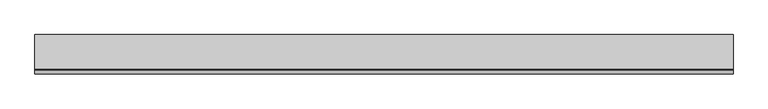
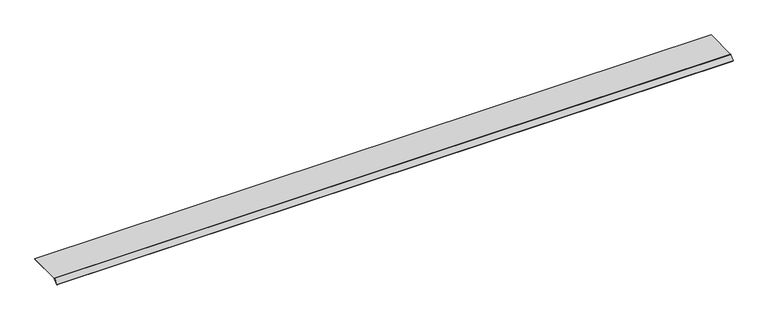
"""IFC4 building model written with IfcOpenShell, lengths in millimetres: proxy geometry, Electrical_Installation_Hager_Blank-Cover-800mm-Single-Sided-Height-40mm : Electrical_Installation_Hager_Blank-Cover-800mm-Single-Sided-Height-40mm."""

from ifc_helpers import new_model, si_unit, point, frame, frame_2d, origin, place, context, project, spatial, polyline, circle_curve, trimmed, segment, composite_curve, outline, extrude, source, transform, mapped, element, save


def electrical_fixtures_4618f37a(model_context):
    return source(origin(), model_context, "Body", "SweptSolid", [
        extrude(outline(composite_curve([segment(polyline([(150.0, 25.5), (150.0, 22.5), (-149.8229541, 22.5)]), True, "CONTINUOUS"), segment(trimmed(circle_curve(frame_2d((-149.8229541, 21.0725733)), 1.4274267), [point((-149.8229541, 22.5))], [point((-150.8322972, 22.0819164))], True, "CARTESIAN"), True, "CONTINUOUS"), segment(polyline([(-150.8322972, 22.0819164), (-187.91729, -15.0030764), (-190.0386103, -12.8817561), (-152.8206472, 24.336207)]), True, "CONTINUOUS"), segment(trimmed(circle_curve(frame_2d((-150.0110025, 21.5265623)), 3.9734377), [point((-152.8206472, 24.336207))], [point((-150.0110025, 25.5))], False, "CARTESIAN"), True, "CONTINUOUS"), segment(polyline([(-150.0110025, 25.5), (150.0, 25.5)]), True, "CONTINUOUS")], self_intersect=False)), frame((0.0, 0.0, 0.0), z_axis=(1.0, 0.0, 0.0), x_axis=(0.0, 1.0, 0.0)), (0.0, 0.0, 1.0), 6011.6956759),
    ])


if __name__ == "__main__":
    model = new_model("IFC4")
    model_context = context("Model", 3, world=origin())
    ifc_project = project(units=[si_unit("LENGTHUNIT", "METRE", prefix="MILLI")], contexts=[model_context])
    site = spatial("IfcSite", under=ifc_project)
    building = spatial("IfcBuilding", under=site)
    placement = place(None, origin())
    electrical_fixtures_shape = electrical_fixtures_4618f37a(model_context)
    element("IfcBuildingElementProxy", 1, Name="Electrical_Installation_Hager_Blank-Cover-800mm-Single-Sided-Height-40mm : Electrical_Installation_Hager_Blank-Cover-800mm-Single-Sided-Height-40mm", ObjectType="Electrical_Installation_Hager_Blank-Cover-800mm-Single-Sided-Height-40mm : Electrical_Installation_Hager_Blank-Cover-800mm-Single-Sided-Height-40mm", at=placement, inside=building, context=model_context, shape_type="MappedRepresentation", body=[
        mapped(electrical_fixtures_shape, transform((0.0, 0.0, 0.0), x_axis=(1.0, 0.0, 0.0), y_axis=(0.0, 1.0, 0.0), z_axis=(0.0, 0.0, 1.0))),
    ])
    save(model, "model.ifc")
